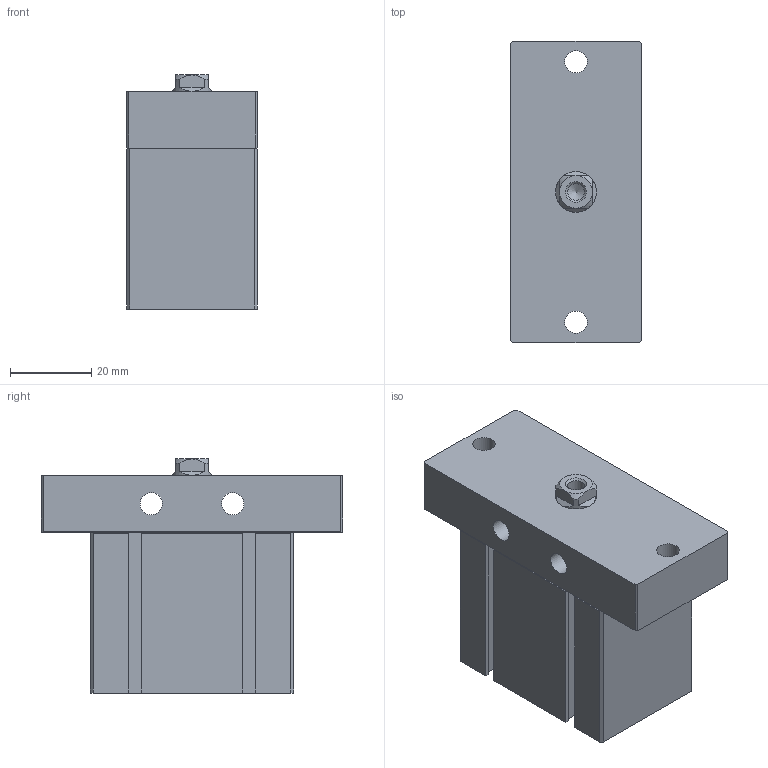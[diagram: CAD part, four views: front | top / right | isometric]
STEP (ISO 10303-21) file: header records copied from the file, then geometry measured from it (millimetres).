
FILE_DESCRIPTION((''),'2;1');
FILE_NAME('J:\3D電子目錄\氣缸\ND\ND\ND25-F\ND25x10-F.stp','2008-03-12T14:11:27',('66-2f-008'),(''),'Autodesk Inventor 11','Autodesk Inventor 11','');
FILE_SCHEMA(('AUTOMOTIVE_DESIGN { 1 0 10303 214 1 1 1 1 }'));
Length unit declared in the file: millimetre
Products named in the file (1): ND25-F
Bounding box: 32 x 74 x 57.5 mm (x, y, z)
Volume: 87772.3 mm3; surface area: 19405.9 mm2
Topology: 2 solids, 2 shells, 119 faces, 289 edges, 183 vertices
Faces by surface type: plane 79, bspline 16, cone 12, cylinder 11, torus 1
Full cylindrical faces by diameter (mm): 1.5 x2, 5.5 x2, 17 x1, 28 x1, 29.4 x1
Entity records: 3424 total; most frequent: CARTESIAN_POINT 784, DIRECTION 516, ORIENTED_EDGE 510, EDGE_CURVE 255, VECTOR 186, LINE 186, VERTEX_POINT 177, AXIS2_PLACEMENT_3D 165
